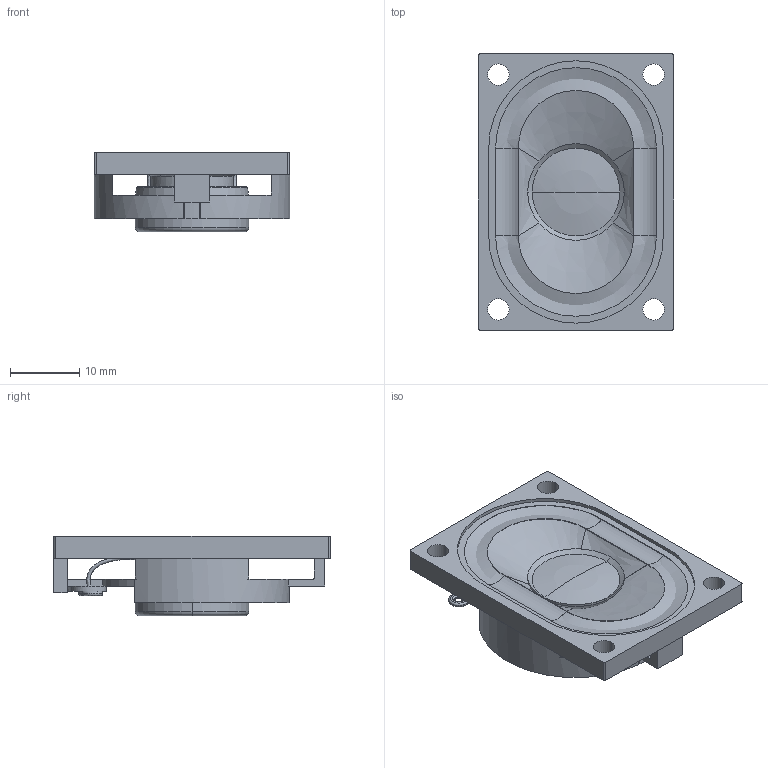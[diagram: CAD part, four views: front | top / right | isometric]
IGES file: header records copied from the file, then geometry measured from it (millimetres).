
Global section: file name: No Iges File Name specified; native system: AutoDesk Inventor R12.0; preprocessor: AutoDesk Inventor Iges Exporter R12.0; date: 20090220.160818; units: inch
Bounding box: 28.3 x 40 x 11.5 mm (x, y, z)
Volume: 3833.6 mm3; surface area: 5631.4 mm2
Topology: 1 solids, 1 shells, 213 faces, 558 edges, 338 vertices
Faces by surface type: plane 74, torus 40, revolution 36, cylinder 36, bspline 21, cone 4, sphere 2
